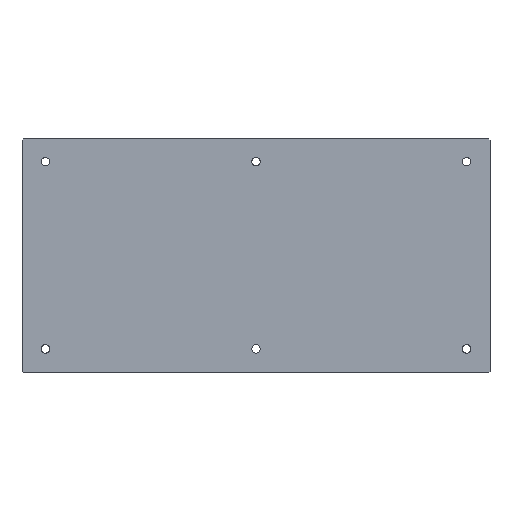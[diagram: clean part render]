
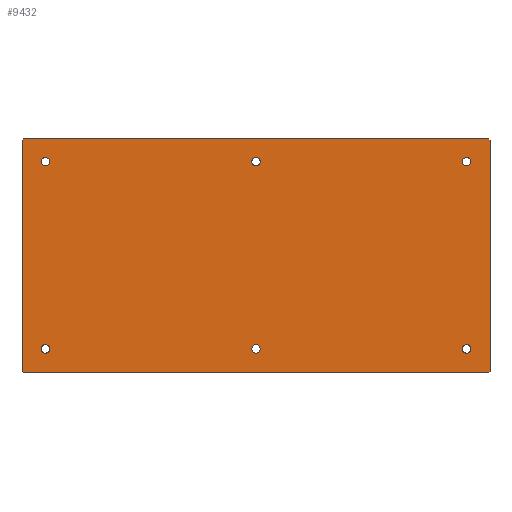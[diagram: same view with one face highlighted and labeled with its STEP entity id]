
A CAD part, front view. The second image highlights one B-rep face of the part: STEP entity #9432.
In plain terms, the highlighted planar face has unit normal (0, -1, 0).
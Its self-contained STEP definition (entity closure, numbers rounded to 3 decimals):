
#1=CARTESIAN_POINT('',(450.,-30.,201.5));
#2=DIRECTION('',(0.,1.,0.));
#3=DIRECTION('',(1.,0.,0.));
#4=AXIS2_PLACEMENT_3D('',#1,#2,#3);
#6=CARTESIAN_POINT('',(450.,-30.,201.5));
#7=DIRECTION('',(0.,1.,0.));
#8=DIRECTION('',(-1.,0.,0.));
#9=AXIS2_PLACEMENT_3D('',#6,#7,#8);
#11=CARTESIAN_POINT('',(0.,-30.,201.5));
#12=DIRECTION('',(0.,1.,0.));
#13=DIRECTION('',(1.,0.,0.));
#14=AXIS2_PLACEMENT_3D('',#11,#12,#13);
#16=CARTESIAN_POINT('',(0.,-30.,201.5));
#17=DIRECTION('',(0.,1.,0.));
#18=DIRECTION('',(-1.,0.,0.));
#19=AXIS2_PLACEMENT_3D('',#16,#17,#18);
#21=CARTESIAN_POINT('',(-450.,-30.,201.5));
#22=DIRECTION('',(0.,1.,0.));
#23=DIRECTION('',(1.,0.,0.));
#24=AXIS2_PLACEMENT_3D('',#21,#22,#23);
#26=CARTESIAN_POINT('',(-450.,-30.,201.5));
#27=DIRECTION('',(0.,1.,0.));
#28=DIRECTION('',(-1.,0.,0.));
#29=AXIS2_PLACEMENT_3D('',#26,#27,#28);
#31=CARTESIAN_POINT('',(450.,-30.,-198.5));
#32=DIRECTION('',(0.,-1.,0.));
#33=DIRECTION('',(1.,0.,0.));
#34=AXIS2_PLACEMENT_3D('',#31,#32,#33);
#36=CARTESIAN_POINT('',(450.,-30.,-198.5));
#37=DIRECTION('',(0.,-1.,0.));
#38=DIRECTION('',(-1.,0.,0.));
#39=AXIS2_PLACEMENT_3D('',#36,#37,#38);
#41=CARTESIAN_POINT('',(0.,-30.,-198.5));
#42=DIRECTION('',(0.,-1.,0.));
#43=DIRECTION('',(1.,0.,0.));
#44=AXIS2_PLACEMENT_3D('',#41,#42,#43);
#46=CARTESIAN_POINT('',(0.,-30.,-198.5));
#47=DIRECTION('',(0.,-1.,0.));
#48=DIRECTION('',(-1.,0.,0.));
#49=AXIS2_PLACEMENT_3D('',#46,#47,#48);
#51=CARTESIAN_POINT('',(-450.,-30.,-198.5));
#52=DIRECTION('',(0.,-1.,0.));
#53=DIRECTION('',(1.,0.,0.));
#54=AXIS2_PLACEMENT_3D('',#51,#52,#53);
#56=CARTESIAN_POINT('',(-450.,-30.,-198.5));
#57=DIRECTION('',(0.,-1.,0.));
#58=DIRECTION('',(-1.,0.,0.));
#59=AXIS2_PLACEMENT_3D('',#56,#57,#58);
#61=DIRECTION('',(-0.707,0.,0.707));
#62=VECTOR('',#61,4.243);
#63=CARTESIAN_POINT('',(500.,-30.,247.));
#64=LINE('',#63,#62);
#65=DIRECTION('',(0.,0.,-1.));
#66=VECTOR('',#65,494.);
#67=CARTESIAN_POINT('',(500.,-30.,247.));
#68=LINE('',#67,#66);
#69=DIRECTION('',(0.707,0.,0.707));
#70=VECTOR('',#69,4.243);
#71=CARTESIAN_POINT('',(497.,-30.,-250.));
#72=LINE('',#71,#70);
#73=DIRECTION('',(-1.,0.,0.));
#74=VECTOR('',#73,994.);
#75=CARTESIAN_POINT('',(497.,-30.,-250.));
#76=LINE('',#75,#74);
#77=DIRECTION('',(0.707,0.,-0.707));
#78=VECTOR('',#77,4.243);
#79=CARTESIAN_POINT('',(-500.,-30.,-247.));
#80=LINE('',#79,#78);
#81=DIRECTION('',(0.,0.,1.));
#82=VECTOR('',#81,494.);
#83=CARTESIAN_POINT('',(-500.,-30.,-247.));
#84=LINE('',#83,#82);
#85=DIRECTION('',(-0.707,0.,-0.707));
#86=VECTOR('',#85,4.243);
#87=CARTESIAN_POINT('',(-497.,-30.,250.));
#88=LINE('',#87,#86);
#89=DIRECTION('',(1.,0.,0.));
#90=VECTOR('',#89,994.);
#91=CARTESIAN_POINT('',(-497.,-30.,250.));
#92=LINE('',#91,#90);
#9093=CARTESIAN_POINT('',(459.,-30.,201.5));
#9094=CARTESIAN_POINT('',(441.,-30.,201.5));
#9095=VERTEX_POINT('',#9093);
#9096=VERTEX_POINT('',#9094);
#9125=CARTESIAN_POINT('',(9.,-30.,201.5));
#9126=CARTESIAN_POINT('',(-9.,-30.,201.5));
#9127=VERTEX_POINT('',#9125);
#9128=VERTEX_POINT('',#9126);
#9165=CARTESIAN_POINT('',(-441.,-30.,201.5));
#9166=CARTESIAN_POINT('',(-459.,-30.,201.5));
#9167=VERTEX_POINT('',#9165);
#9168=VERTEX_POINT('',#9166);
#9213=CARTESIAN_POINT('',(459.,-30.,-198.5));
#9214=VERTEX_POINT('',#9213);
#9217=CARTESIAN_POINT('',(441.,-30.,-198.5));
#9218=VERTEX_POINT('',#9217);
#9229=CARTESIAN_POINT('',(9.,-30.,-198.5));
#9230=VERTEX_POINT('',#9229);
#9233=CARTESIAN_POINT('',(-9.,-30.,-198.5));
#9234=VERTEX_POINT('',#9233);
#9245=CARTESIAN_POINT('',(-441.,-30.,-198.5));
#9246=VERTEX_POINT('',#9245);
#9249=CARTESIAN_POINT('',(-459.,-30.,-198.5));
#9250=VERTEX_POINT('',#9249);
#9341=CARTESIAN_POINT('',(500.,-30.,247.));
#9342=CARTESIAN_POINT('',(497.,-30.,250.));
#9343=VERTEX_POINT('',#9341);
#9344=VERTEX_POINT('',#9342);
#9349=CARTESIAN_POINT('',(-497.,-30.,250.));
#9350=CARTESIAN_POINT('',(-500.,-30.,247.));
#9351=VERTEX_POINT('',#9349);
#9352=VERTEX_POINT('',#9350);
#9357=CARTESIAN_POINT('',(-500.,-30.,-247.));
#9358=CARTESIAN_POINT('',(-497.,-30.,-250.));
#9359=VERTEX_POINT('',#9357);
#9360=VERTEX_POINT('',#9358);
#9365=CARTESIAN_POINT('',(497.,-30.,-250.));
#9366=CARTESIAN_POINT('',(500.,-30.,-247.));
#9367=VERTEX_POINT('',#9365);
#9368=VERTEX_POINT('',#9366);
#9373=CARTESIAN_POINT('',(0.,-30.,0.));
#9374=DIRECTION('',(0.,1.,0.));
#9375=DIRECTION('',(1.,0.,0.));
#9376=AXIS2_PLACEMENT_3D('',#9373,#9374,#9375);
#9377=PLANE('',#9376);
#9379=ORIENTED_EDGE('',*,*,#9378,.F.);
#9381=ORIENTED_EDGE('',*,*,#9380,.T.);
#9383=ORIENTED_EDGE('',*,*,#9382,.F.);
#9385=ORIENTED_EDGE('',*,*,#9384,.T.);
#9387=ORIENTED_EDGE('',*,*,#9386,.F.);
#9389=ORIENTED_EDGE('',*,*,#9388,.T.);
#9391=ORIENTED_EDGE('',*,*,#9390,.F.);
#9393=ORIENTED_EDGE('',*,*,#9392,.T.);
#9394=EDGE_LOOP('',(#9379,#9381,#9383,#9385,#9387,#9389,#9391,#9393));
#9395=FACE_OUTER_BOUND('',#9394,.F.);
#9397=ORIENTED_EDGE('',*,*,#9396,.F.);
#9399=ORIENTED_EDGE('',*,*,#9398,.F.);
#9400=EDGE_LOOP('',(#9397,#9399));
#9401=FACE_BOUND('',#9400,.F.);
#9403=ORIENTED_EDGE('',*,*,#9402,.F.);
#9405=ORIENTED_EDGE('',*,*,#9404,.F.);
#9406=EDGE_LOOP('',(#9403,#9405));
#9407=FACE_BOUND('',#9406,.F.);
#9409=ORIENTED_EDGE('',*,*,#9408,.T.);
#9411=ORIENTED_EDGE('',*,*,#9410,.T.);
#9412=EDGE_LOOP('',(#9409,#9411));
#9413=FACE_BOUND('',#9412,.F.);
#9415=ORIENTED_EDGE('',*,*,#9414,.T.);
#9417=ORIENTED_EDGE('',*,*,#9416,.T.);
#9418=EDGE_LOOP('',(#9415,#9417));
#9419=FACE_BOUND('',#9418,.F.);
#9421=ORIENTED_EDGE('',*,*,#9420,.T.);
#9423=ORIENTED_EDGE('',*,*,#9422,.T.);
#9424=EDGE_LOOP('',(#9421,#9423));
#9425=FACE_BOUND('',#9424,.F.);
#9427=ORIENTED_EDGE('',*,*,#9426,.F.);
#9429=ORIENTED_EDGE('',*,*,#9428,.F.);
#9430=EDGE_LOOP('',(#9427,#9429));
#9431=FACE_BOUND('',#9430,.F.);
#9432=ADVANCED_FACE('',(#9395,#9401,#9407,#9413,#9419,#9425,#9431),#9377,.F.);
#5=CIRCLE('',#4,9.);
#10=CIRCLE('',#9,9.);
#15=CIRCLE('',#14,9.);
#20=CIRCLE('',#19,9.);
#25=CIRCLE('',#24,9.);
#30=CIRCLE('',#29,9.);
#35=CIRCLE('',#34,9.);
#40=CIRCLE('',#39,9.);
#45=CIRCLE('',#44,9.);
#50=CIRCLE('',#49,9.);
#55=CIRCLE('',#54,9.);
#60=CIRCLE('',#59,9.);
#9378=EDGE_CURVE('',#9343,#9344,#64,.T.);
#9380=EDGE_CURVE('',#9343,#9368,#68,.T.);
#9382=EDGE_CURVE('',#9367,#9368,#72,.T.);
#9384=EDGE_CURVE('',#9367,#9360,#76,.T.);
#9386=EDGE_CURVE('',#9359,#9360,#80,.T.);
#9388=EDGE_CURVE('',#9359,#9352,#84,.T.);
#9390=EDGE_CURVE('',#9351,#9352,#88,.T.);
#9392=EDGE_CURVE('',#9351,#9344,#92,.T.);
#9396=EDGE_CURVE('',#9127,#9128,#15,.T.);
#9398=EDGE_CURVE('',#9128,#9127,#20,.T.);
#9402=EDGE_CURVE('',#9167,#9168,#25,.T.);
#9404=EDGE_CURVE('',#9168,#9167,#30,.T.);
#9408=EDGE_CURVE('',#9214,#9218,#35,.T.);
#9410=EDGE_CURVE('',#9218,#9214,#40,.T.);
#9414=EDGE_CURVE('',#9230,#9234,#45,.T.);
#9416=EDGE_CURVE('',#9234,#9230,#50,.T.);
#9420=EDGE_CURVE('',#9246,#9250,#55,.T.);
#9422=EDGE_CURVE('',#9250,#9246,#60,.T.);
#9426=EDGE_CURVE('',#9095,#9096,#5,.T.);
#9428=EDGE_CURVE('',#9096,#9095,#10,.T.);
